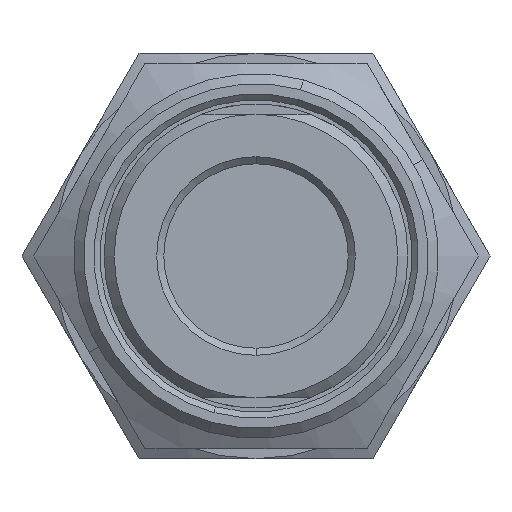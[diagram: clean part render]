
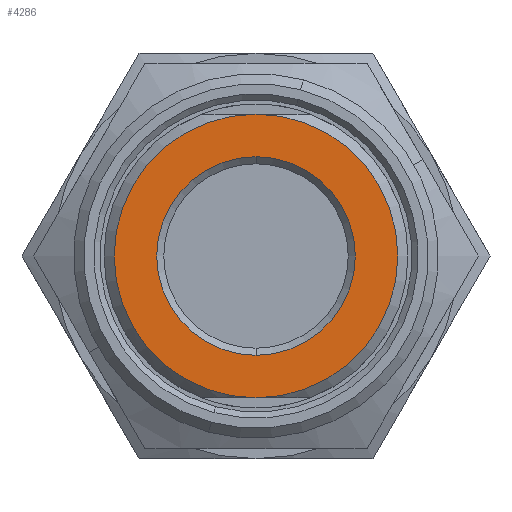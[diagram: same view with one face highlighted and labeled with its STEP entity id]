
A CAD part, front view. The second image highlights one B-rep face of the part: STEP entity #4286.
In plain terms, the highlighted planar face has unit normal (0, -1, 0).
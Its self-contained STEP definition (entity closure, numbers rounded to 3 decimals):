
#249 = CARTESIAN_POINT ( 'NONE',  ( 0., 0., 0. ) ) ;
#845 = EDGE_LOOP ( 'NONE', ( #4158, #4159 ) ) ;
#857 = EDGE_LOOP ( 'NONE', ( #4156, #4157 ) ) ;
#1217 = DIRECTION ( 'NONE',  ( 0., 1., 0. ) ) ;
#1218 = DIRECTION ( 'NONE',  ( 0., 0., 1. ) ) ;
#1220 = CARTESIAN_POINT ( 'NONE',  ( 0., 0., 0. ) ) ;
#1221 = DIRECTION ( 'NONE',  ( 0., -1., 0. ) ) ;
#1222 = DIRECTION ( 'NONE',  ( 0., 0., -1. ) ) ;
#1225 = CARTESIAN_POINT ( 'NONE',  ( 0., 0., 0. ) ) ;
#1226 = DIRECTION ( 'NONE',  ( 0., -1., 0. ) ) ;
#1227 = DIRECTION ( 'NONE',  ( 0., 0., -1. ) ) ;
#1300 = CARTESIAN_POINT ( 'NONE',  ( 0., 0., 0. ) ) ;
#1301 = DIRECTION ( 'NONE',  ( 0., 1., 0. ) ) ;
#1302 = DIRECTION ( 'NONE',  ( 0., 0., 1. ) ) ;
#1453 = AXIS2_PLACEMENT_3D ( 'NONE', #249, #1217, #1218 ) ;
#1454 = AXIS2_PLACEMENT_3D ( 'NONE', #1220, #1221, #1222 ) ;
#1455 = AXIS2_PLACEMENT_3D ( 'NONE', #1225, #1226, #1227 ) ;
#1469 = AXIS2_PLACEMENT_3D ( 'NONE', #1300, #1301, #1302 ) ;
#1674 = AXIS2_PLACEMENT_3D ( 'NONE', #1948, #1949, #1950 ) ;
#1941 = PLANE ( 'NONE',  #1674 ) ;
#1948 = CARTESIAN_POINT ( 'NONE',  ( 0., 0., 0. ) ) ;
#1949 = DIRECTION ( 'NONE',  ( 0., -1., 0. ) ) ;
#1950 = DIRECTION ( 'NONE',  ( 0., 0., -1. ) ) ;
#2696 = CIRCLE ( 'NONE', #1455, 7. ) ;
#2701 = CIRCLE ( 'NONE', #1453, 4.9 ) ;
#2702 = CIRCLE ( 'NONE', #1454, 7. ) ;
#2733 = CIRCLE ( 'NONE', #1469, 4.9 ) ;
#3115 = FACE_OUTER_BOUND ( 'NONE', #857, .T. ) ;
#3116 = FACE_BOUND ( 'NONE', #845, .T. ) ;
#3237 = EDGE_CURVE ( 'NONE', #3999, #4001, #2701, .T. ) ;
#3238 = EDGE_CURVE ( 'NONE', #3984, #3985, #2702, .T. ) ;
#3239 = EDGE_CURVE ( 'NONE', #3985, #3984, #2696, .T. ) ;
#3264 = EDGE_CURVE ( 'NONE', #4001, #3999, #2733, .T. ) ;
#3838 = CARTESIAN_POINT ( 'NONE',  ( 0., 0., 7. ) ) ;
#3839 = CARTESIAN_POINT ( 'NONE',  ( 0., 0., -7. ) ) ;
#3849 = CARTESIAN_POINT ( 'NONE',  ( 0., 0., 4.9 ) ) ;
#3851 = CARTESIAN_POINT ( 'NONE',  ( 0., 0., -4.9 ) ) ;
#3984 = VERTEX_POINT ( 'NONE', #3838 ) ;
#3985 = VERTEX_POINT ( 'NONE', #3839 ) ;
#3999 = VERTEX_POINT ( 'NONE', #3849 ) ;
#4001 = VERTEX_POINT ( 'NONE', #3851 ) ;
#4156 = ORIENTED_EDGE ( 'NONE', *, *, #3238, .T. ) ;
#4157 = ORIENTED_EDGE ( 'NONE', *, *, #3239, .T. ) ;
#4158 = ORIENTED_EDGE ( 'NONE', *, *, #3264, .T. ) ;
#4159 = ORIENTED_EDGE ( 'NONE', *, *, #3237, .T. ) ;
#4286 = ADVANCED_FACE ( 'NONE', ( #3115, #3116 ), #1941, .T. ) ;
